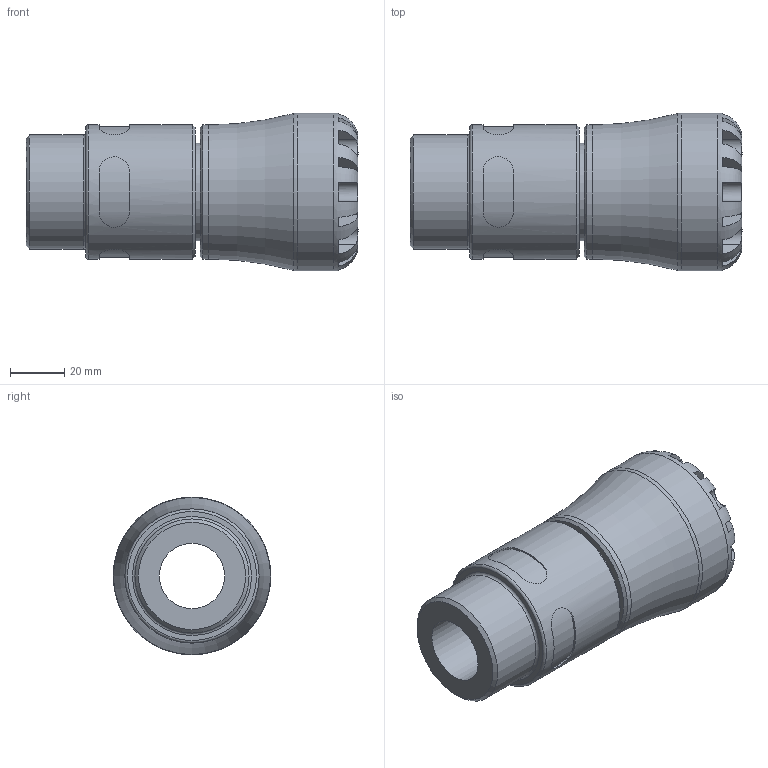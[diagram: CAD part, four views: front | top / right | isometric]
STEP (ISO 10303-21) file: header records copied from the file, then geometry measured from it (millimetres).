
FILE_DESCRIPTION(/* description */ ('PLASSON MALE ADAPTOR 32X1.1/4" SERIES 1'),/* implementation_level */ '2;1');
FILE_NAME(/* name */ 'C:\Dropbox\KIMPROJECTS-Inventor 2019\99-16-3568-Processing\S1\10N20\stp\10N200032013_10N2G0032013.stp',/* time_stamp */ '2024-03-12T13:19:28+01:00',/* author */ ('KIM'),/* organization */ (''),/* preprocessor_version */ 'ST-DEVELOPER v17.2',/* originating_system */ 'Autodesk Inventor 2019',/* authorisation */ '');
FILE_SCHEMA (('AUTOMOTIVE_DESIGN { 1 0 10303 214 3 1 1 }'));
Length unit declared in the file: millimetre
Products named in the file (1): 10N200032013_10N2G0032013
Bounding box: 122 x 58 x 58 mm (x, y, z)
Volume: 162297.9 mm3; surface area: 35822.6 mm2
Topology: 1 solids, 1 shells, 106 faces, 279 edges, 182 vertices
Faces by surface type: plane 62, cylinder 35, torus 5, cone 4
Full cylindrical faces by diameter (mm): 24 x1, 32 x1, 36 x1, 41.91 x1, 49.3 x2, 58 x1
Entity records: 4224 total; most frequent: CARTESIAN_POINT 1490, ORIENTED_EDGE 558, DIRECTION 552, EDGE_CURVE 279, AXIS2_PLACEMENT_3D 230, VERTEX_POINT 182, CIRCLE 123, EDGE_LOOP 115
